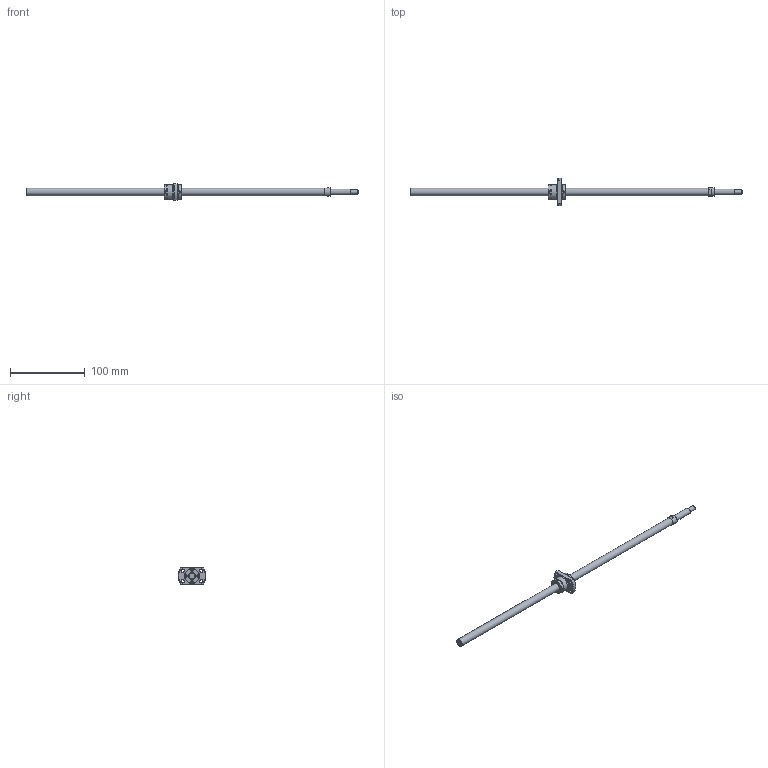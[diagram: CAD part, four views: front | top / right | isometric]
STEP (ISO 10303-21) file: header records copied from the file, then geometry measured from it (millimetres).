
FILE_DESCRIPTION(/* description */ ('STEP AP214'),/* implementation_level */ '2;1');
FILE_NAME(/* name */ 'SRT1020-396R445C7A0X(185Processing)',/* time_stamp */ '2026-08-06T15:24:04+02:00',/* author */ ('License CC BY-ND 4.0'),/* organization */ ('CADENAS'),/* preprocessor_version */ 'ST-DEVELOPER v20',/* originating_system */ 'PARTsolutions',/* authorisation */ ' ');
FILE_SCHEMA (('AUTOMOTIVE_DESIGN {1 0 10303 214 3 1 1}'));
Length unit declared in the file: millimetre
Products named in the file (3): SRT1020-396R445C7A0X(185Processing); SRT1020-396R470ACt7Processing74Shaft; SRT1020Nut
Assembly tree (2 placements, depth 2):
  SRT1020-396R445C7A0X(185Processing)
    SRT1020-396R470ACt7Processing74Shaft
    SRT1020Nut
Bounding box: 445 x 37 x 22 mm (x, y, z)
Volume: 40928.5 mm3; surface area: 18002.5 mm2
Topology: 2 solids, 2 shells, 150 faces, 360 edges, 236 vertices
Faces by surface type: plane 106, cylinder 32, cone 11, torus 1
Full cylindrical faces by diameter (mm): 3 x8, 4.5 x4, 6 x1, 8 x1, 10 x2, 11.5 x1, 19.5 x3, 20 x2
Entity records: 4267 total; most frequent: CARTESIAN_POINT 737, DIRECTION 718, ORIENTED_EDGE 654, EDGE_CURVE 327, AXIS2_PLACEMENT_3D 246, VERTEX_POINT 233, LINE 226, VECTOR 226
